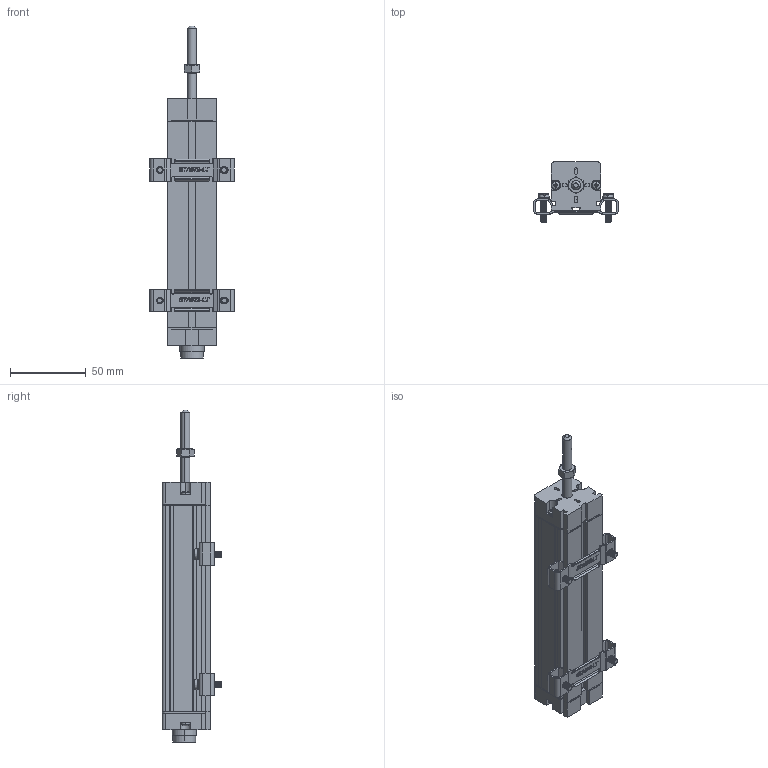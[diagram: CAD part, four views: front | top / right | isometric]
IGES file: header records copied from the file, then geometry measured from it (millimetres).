
Start section: SolidWorks IGES file using analytic representation for surfaces
Global section: file name: \\srv4gefran\dir-cat\Disegni Catalogo\Posizione\LTV2\LT-M-0100-S\3D\Solidworks 2015\LT-B-0100-S\LT-B-0100-S.IGS; native system: SolidWorks 2015; preprocessor: SolidWorks 2015; author: Loda-w1; date: 160531.162113; units: millimetre
Bounding box: 56 x 39.7 x 219.71 mm (x, y, z)
Surface area: 52593.3 mm2 (no closed solid volume)
Topology: 0 solids, 0 shells, 2139 faces, 40168 edges, 51092 vertices
Faces by surface type: revolution 1380, bspline 759
